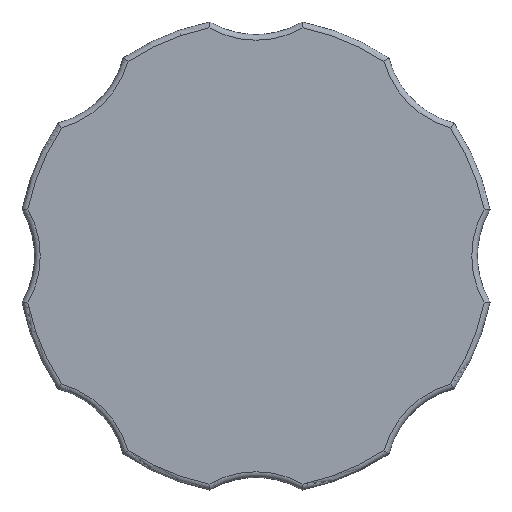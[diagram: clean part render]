
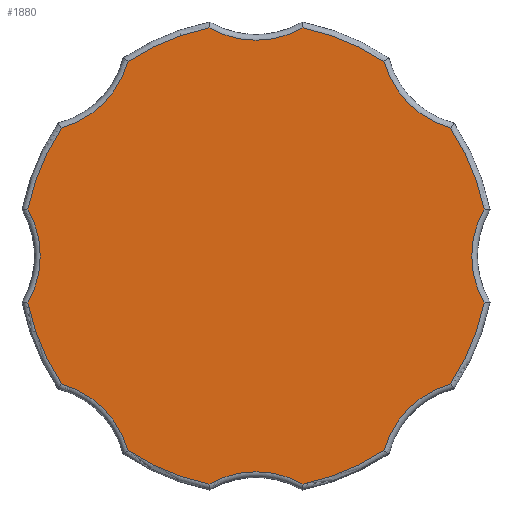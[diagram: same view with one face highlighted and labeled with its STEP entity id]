
A CAD part, front view. The second image highlights one B-rep face of the part: STEP entity #1880.
In plain terms, the highlighted planar face has unit normal (0, -1, 0).
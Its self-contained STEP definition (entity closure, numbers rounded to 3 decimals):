
#165=FACE_OUTER_BOUND('',#284,.T.);
#284=EDGE_LOOP('',(#1320,#1321,#1322,#1323,#1324,#1325,#1326,#1327,#1328,
#1329,#1330,#1331,#1332,#1333,#1334,#1335));
#622=CIRCLE('',#2045,20.5);
#624=CIRCLE('',#2051,20.5);
#626=CIRCLE('',#2054,8.5);
#627=CIRCLE('',#2055,20.5);
#628=CIRCLE('',#2056,8.5);
#629=CIRCLE('',#2057,20.5);
#630=CIRCLE('',#2058,8.5);
#631=CIRCLE('',#2059,20.5);
#632=CIRCLE('',#2060,8.5);
#633=CIRCLE('',#2061,20.5);
#634=CIRCLE('',#2062,8.5);
#635=CIRCLE('',#2063,8.5);
#636=CIRCLE('',#2064,20.5);
#637=CIRCLE('',#2065,8.5);
#638=CIRCLE('',#2066,20.5);
#639=CIRCLE('',#2067,8.5);
#796=VERTEX_POINT('',#3042);
#797=VERTEX_POINT('',#3057);
#801=VERTEX_POINT('',#3086);
#802=VERTEX_POINT('',#3087);
#805=VERTEX_POINT('',#3121);
#806=VERTEX_POINT('',#3123);
#807=VERTEX_POINT('',#3125);
#808=VERTEX_POINT('',#3127);
#809=VERTEX_POINT('',#3129);
#810=VERTEX_POINT('',#3131);
#811=VERTEX_POINT('',#3133);
#812=VERTEX_POINT('',#3135);
#813=VERTEX_POINT('',#3138);
#814=VERTEX_POINT('',#3140);
#815=VERTEX_POINT('',#3142);
#816=VERTEX_POINT('',#3144);
#990=EDGE_CURVE('',#796,#797,#622,.T.);
#998=EDGE_CURVE('',#801,#802,#624,.T.);
#1002=EDGE_CURVE('',#805,#796,#626,.T.);
#1003=EDGE_CURVE('',#806,#805,#627,.T.);
#1004=EDGE_CURVE('',#807,#806,#628,.T.);
#1005=EDGE_CURVE('',#808,#807,#629,.T.);
#1006=EDGE_CURVE('',#809,#808,#630,.T.);
#1007=EDGE_CURVE('',#810,#809,#631,.T.);
#1008=EDGE_CURVE('',#811,#810,#632,.T.);
#1009=EDGE_CURVE('',#812,#811,#633,.T.);
#1010=EDGE_CURVE('',#802,#812,#634,.T.);
#1011=EDGE_CURVE('',#813,#801,#635,.T.);
#1012=EDGE_CURVE('',#814,#813,#636,.T.);
#1013=EDGE_CURVE('',#815,#814,#637,.T.);
#1014=EDGE_CURVE('',#816,#815,#638,.T.);
#1015=EDGE_CURVE('',#797,#816,#639,.T.);
#1320=ORIENTED_EDGE('',*,*,#990,.F.);
#1321=ORIENTED_EDGE('',*,*,#1002,.F.);
#1322=ORIENTED_EDGE('',*,*,#1003,.F.);
#1323=ORIENTED_EDGE('',*,*,#1004,.F.);
#1324=ORIENTED_EDGE('',*,*,#1005,.F.);
#1325=ORIENTED_EDGE('',*,*,#1006,.F.);
#1326=ORIENTED_EDGE('',*,*,#1007,.F.);
#1327=ORIENTED_EDGE('',*,*,#1008,.F.);
#1328=ORIENTED_EDGE('',*,*,#1009,.F.);
#1329=ORIENTED_EDGE('',*,*,#1010,.F.);
#1330=ORIENTED_EDGE('',*,*,#998,.F.);
#1331=ORIENTED_EDGE('',*,*,#1011,.F.);
#1332=ORIENTED_EDGE('',*,*,#1012,.F.);
#1333=ORIENTED_EDGE('',*,*,#1013,.F.);
#1334=ORIENTED_EDGE('',*,*,#1014,.F.);
#1335=ORIENTED_EDGE('',*,*,#1015,.F.);
#1840=PLANE('',#2053);
#1880=ADVANCED_FACE('',(#165),#1840,.T.);
#2045=AXIS2_PLACEMENT_3D('',#3058,#2385,#2386);
#2051=AXIS2_PLACEMENT_3D('',#3088,#2402,#2403);
#2053=AXIS2_PLACEMENT_3D('',#3120,#2406,#2407);
#2054=AXIS2_PLACEMENT_3D('',#3122,#2408,#2409);
#2055=AXIS2_PLACEMENT_3D('',#3124,#2410,#2411);
#2056=AXIS2_PLACEMENT_3D('',#3126,#2412,#2413);
#2057=AXIS2_PLACEMENT_3D('',#3128,#2414,#2415);
#2058=AXIS2_PLACEMENT_3D('',#3130,#2416,#2417);
#2059=AXIS2_PLACEMENT_3D('',#3132,#2418,#2419);
#2060=AXIS2_PLACEMENT_3D('',#3134,#2420,#2421);
#2061=AXIS2_PLACEMENT_3D('',#3136,#2422,#2423);
#2062=AXIS2_PLACEMENT_3D('',#3137,#2424,#2425);
#2063=AXIS2_PLACEMENT_3D('',#3139,#2426,#2427);
#2064=AXIS2_PLACEMENT_3D('',#3141,#2428,#2429);
#2065=AXIS2_PLACEMENT_3D('',#3143,#2430,#2431);
#2066=AXIS2_PLACEMENT_3D('',#3145,#2432,#2433);
#2067=AXIS2_PLACEMENT_3D('',#3146,#2434,#2435);
#2385=DIRECTION('center_axis',(0.,1.,0.));
#2386=DIRECTION('ref_axis',(0.924,0.,0.383));
#2402=DIRECTION('center_axis',(0.,1.,0.));
#2403=DIRECTION('ref_axis',(-0.383,0.,-0.924));
#2406=DIRECTION('center_axis',(0.,-1.,0.));
#2407=DIRECTION('ref_axis',(0.,0.,-1.));
#2408=DIRECTION('center_axis',(0.,-1.,0.));
#2409=DIRECTION('ref_axis',(-0.707,0.,-0.707));
#2410=DIRECTION('center_axis',(0.,1.,0.));
#2411=DIRECTION('ref_axis',(0.383,0.,0.924));
#2412=DIRECTION('center_axis',(0.,-1.,0.));
#2413=DIRECTION('ref_axis',(0.,0.,-1.));
#2414=DIRECTION('center_axis',(0.,1.,0.));
#2415=DIRECTION('ref_axis',(-0.383,0.,0.924));
#2416=DIRECTION('center_axis',(0.,-1.,0.));
#2417=DIRECTION('ref_axis',(0.707,0.,-0.707));
#2418=DIRECTION('center_axis',(0.,1.,0.));
#2419=DIRECTION('ref_axis',(-0.924,0.,0.383));
#2420=DIRECTION('center_axis',(0.,-1.,0.));
#2421=DIRECTION('ref_axis',(1.,0.,0.));
#2422=DIRECTION('center_axis',(0.,1.,0.));
#2423=DIRECTION('ref_axis',(-0.924,0.,-0.383));
#2424=DIRECTION('center_axis',(0.,-1.,0.));
#2425=DIRECTION('ref_axis',(0.707,0.,0.707));
#2426=DIRECTION('center_axis',(0.,-1.,0.));
#2427=DIRECTION('ref_axis',(0.,0.,
1.));
#2428=DIRECTION('center_axis',(0.,1.,0.));
#2429=DIRECTION('ref_axis',(0.383,0.,-0.924));
#2430=DIRECTION('center_axis',(0.,-1.,0.));
#2431=DIRECTION('ref_axis',(-0.707,0.,0.707));
#2432=DIRECTION('center_axis',(0.,1.,0.));
#2433=DIRECTION('ref_axis',(0.924,0.,-0.383));
#2434=DIRECTION('center_axis',(0.,-1.,0.));
#2435=DIRECTION('ref_axis',(-1.,0.,0.));
#3042=CARTESIAN_POINT('',(17.125,-1.7,11.268));
#3057=CARTESIAN_POINT('',(20.077,-1.7,4.142));
#3058=CARTESIAN_POINT('Origin',(0.,-1.7,
0.));
#3086=CARTESIAN_POINT('',(-4.142,-1.7,-20.077));
#3087=CARTESIAN_POINT('',(-11.268,-1.7,-17.125));
#3088=CARTESIAN_POINT('Origin',(0.,-1.7,
0.));
#3120=CARTESIAN_POINT('Origin',(0.,-1.7,
0.));
#3121=CARTESIAN_POINT('',(11.268,-1.7,17.125));
#3122=CARTESIAN_POINT('Origin',(19.445,-1.7,19.445));
#3123=CARTESIAN_POINT('',(4.142,-1.7,20.077));
#3124=CARTESIAN_POINT('Origin',(0.,-1.7,
0.));
#3125=CARTESIAN_POINT('',(-4.142,-1.7,20.077));
#3126=CARTESIAN_POINT('Origin',(0.,-1.7,
27.5));
#3127=CARTESIAN_POINT('',(-11.268,-1.7,17.125));
#3128=CARTESIAN_POINT('Origin',(0.,-1.7,
0.));
#3129=CARTESIAN_POINT('',(-17.125,-1.7,11.268));
#3130=CARTESIAN_POINT('Origin',(-19.445,-1.7,19.445));
#3131=CARTESIAN_POINT('',(-20.077,-1.7,4.142));
#3132=CARTESIAN_POINT('Origin',(0.,-1.7,
0.));
#3133=CARTESIAN_POINT('',(-20.077,-1.7,-4.142));
#3134=CARTESIAN_POINT('Origin',(-27.5,-1.7,0.));
#3135=CARTESIAN_POINT('',(-17.125,-1.7,-11.268));
#3136=CARTESIAN_POINT('Origin',(0.,-1.7,
0.));
#3137=CARTESIAN_POINT('Origin',(-19.445,-1.7,-19.445));
#3138=CARTESIAN_POINT('',(4.142,-1.7,-20.077));
#3139=CARTESIAN_POINT('Origin',(0.,-1.7,
-27.5));
#3140=CARTESIAN_POINT('',(11.268,-1.7,-17.125));
#3141=CARTESIAN_POINT('Origin',(0.,-1.7,
0.));
#3142=CARTESIAN_POINT('',(17.125,-1.7,-11.268));
#3143=CARTESIAN_POINT('Origin',(19.445,-1.7,-19.445));
#3144=CARTESIAN_POINT('',(20.077,-1.7,-4.142));
#3145=CARTESIAN_POINT('Origin',(0.,-1.7,
0.));
#3146=CARTESIAN_POINT('Origin',(27.5,-1.7,0.));
